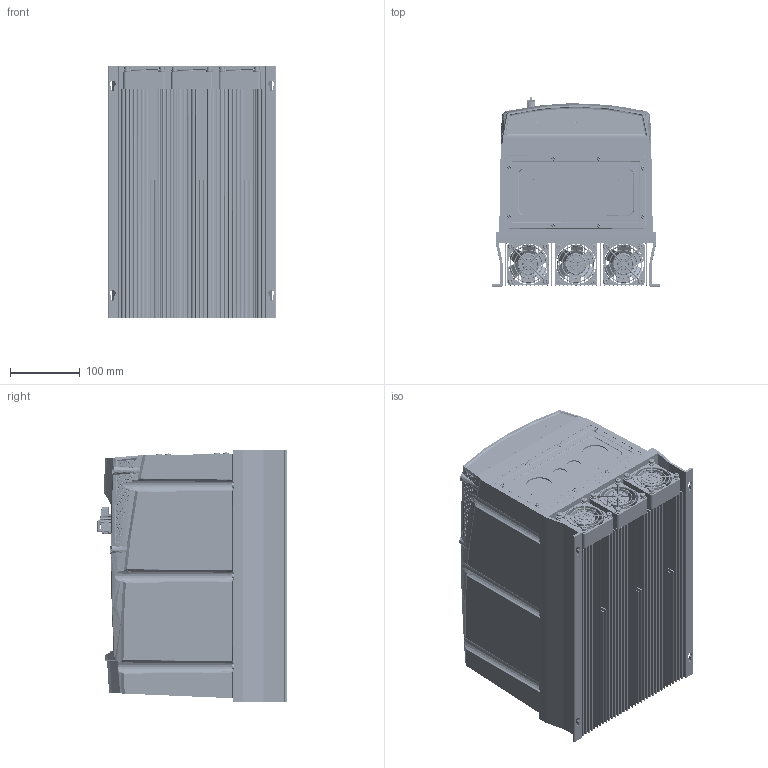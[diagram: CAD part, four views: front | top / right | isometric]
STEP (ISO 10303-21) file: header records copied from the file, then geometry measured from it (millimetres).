
FILE_DESCRIPTION (( 'STEP AP203' ), '1' );
FILE_NAME ('P2.IP66.Gen2.SIZE4.OLED.Switched-Closed (ENVELOPE) (4-Hole).STEP', '2022-08-04T10:07:51', ( '' ), ( '' ), 'SwSTEP 2.0', 'SolidWorks 2022', '' );
FILE_SCHEMA (( 'CONFIG_CONTROL_DESIGN' ));
Products named in the file (1): P2.IP66.Gen2.SIZE4.OLED.Switched-Closed (ENVELOPE) (4-Hole)
Bounding box: 240 x 271.18 x 360.09 mm (x, y, z)
Volume: 15175204.4 mm3; surface area: 1908774.1 mm2
Topology: 1 solids, 43 shells, 8678 faces, 25073 edges, 16238 vertices
Faces by surface type: cylinder 2612, sphere 2065, plane 1803, bspline 1321, cone 595, torus 282
Entity records: 336055 total; most frequent: CARTESIAN_POINT 147385, ORIENTED_EDGE 42252, DIRECTION 36406, EDGE_CURVE 21126, AXIS2_PLACEMENT_3D 14990, VERTEX_POINT 13746, EDGE_LOOP 9194, CIRCLE 8160
